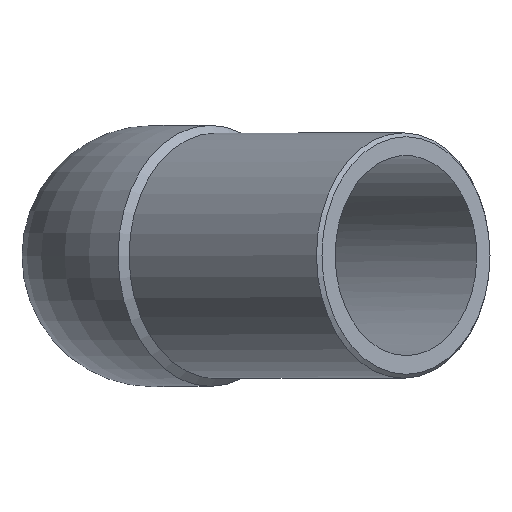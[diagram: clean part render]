
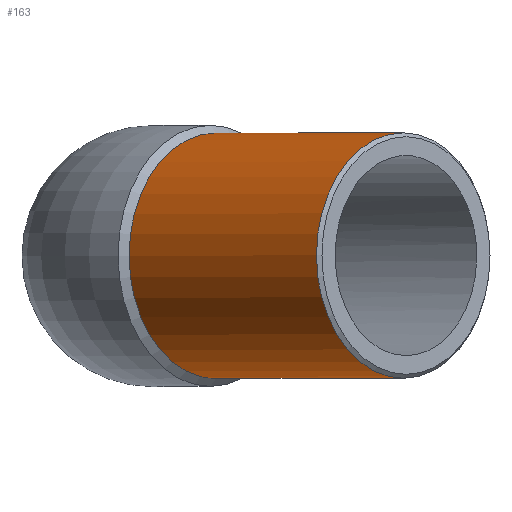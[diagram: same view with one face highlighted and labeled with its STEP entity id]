
A CAD part, top view. The second image highlights one B-rep face of the part: STEP entity #163.
In plain terms, the highlighted cylindrical face has radius 31.5 mm (diameter 63 mm), a full revolution.
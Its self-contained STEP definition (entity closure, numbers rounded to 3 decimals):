
#29=CYLINDRICAL_SURFACE('',#190,31.5);
#35=ORIENTED_EDGE('',*,*,#69,.T.);
#36=ORIENTED_EDGE('',*,*,#67,.F.);
#67=EDGE_CURVE('',#84,#84,#100,.T.);
#69=EDGE_CURVE('',#86,#86,#102,.T.);
#84=VERTEX_POINT('',#267);
#86=VERTEX_POINT('',#272);
#100=CIRCLE('',#188,31.5);
#102=CIRCLE('',#191,31.5);
#114=EDGE_LOOP('',(#35));
#115=EDGE_LOOP('',(#36));
#137=FACE_BOUND('',#114,.T.);
#138=FACE_BOUND('',#115,.T.);
#163=ADVANCED_FACE('',(#137,#138),#29,.T.);
#188=AXIS2_PLACEMENT_3D('',#266,#216,#217);
#190=AXIS2_PLACEMENT_3D('',#270,#220,#221);
#191=AXIS2_PLACEMENT_3D('',#271,#222,#223);
#216=DIRECTION('',(-0.707,0.,-0.707));
#217=DIRECTION('',(-0.707,0.,0.707));
#220=DIRECTION('',(0.707,0.,0.707));
#221=DIRECTION('',(-0.707,0.,0.707));
#222=DIRECTION('',(-0.707,0.,-0.707));
#223=DIRECTION('',(-0.707,0.,0.707));
#266=CARTESIAN_POINT('',(16.263,0.,16.263));
#267=CARTESIAN_POINT('',(-6.01,0.,38.537));
#270=CARTESIAN_POINT('',(65.054,0.,65.054));
#271=CARTESIAN_POINT('',(64.347,0.,64.347));
#272=CARTESIAN_POINT('',(42.073,0.,86.621));
